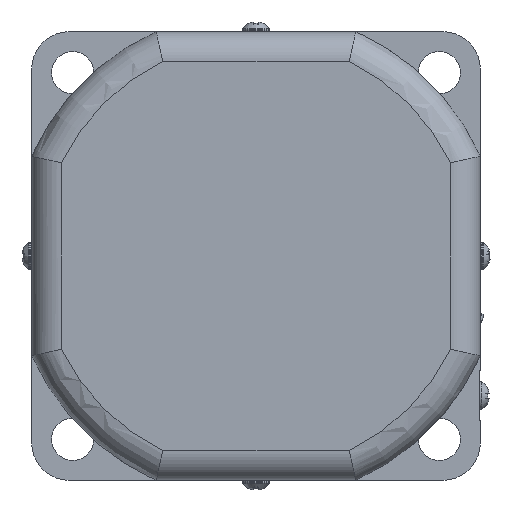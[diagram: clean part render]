
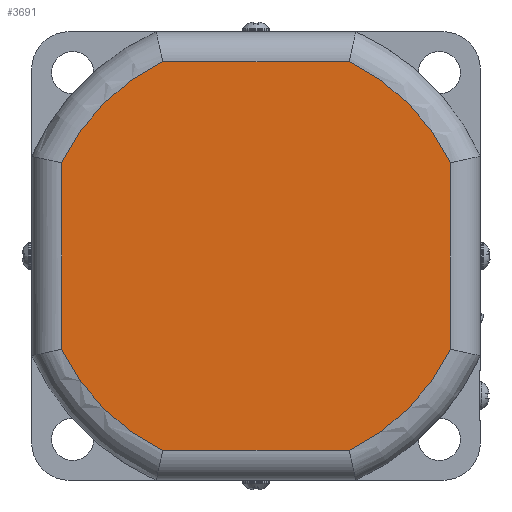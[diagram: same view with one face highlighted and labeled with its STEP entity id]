
A CAD part, left-side view. The second image highlights one B-rep face of the part: STEP entity #3691.
In plain terms, the highlighted planar face has unit normal (-1, 0, 0) as drawn and (0, 0, -1) by its records, which use the part's own axes.
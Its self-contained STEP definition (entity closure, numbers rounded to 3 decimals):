
#399=LINE('',#6521,#687);
#402=LINE('',#6541,#690);
#403=LINE('',#6594,#691);
#404=LINE('',#6611,#692);
#687=VECTOR('',#4920,37.393);
#690=VECTOR('',#4925,37.393);
#691=VECTOR('',#4940,37.393);
#692=VECTOR('',#4943,37.393);
#980=FACE_OUTER_BOUND('',#1221,.T.);
#1221=EDGE_LOOP('',(#3054,#3055,#3056,#3057,#3058,#3059,#3060,#3061));
#1393=CIRCLE('',#4109,43.25);
#1394=CIRCLE('',#4113,43.25);
#1397=CIRCLE('',#4117,43.25);
#1398=CIRCLE('',#4121,43.25);
#1680=VERTEX_POINT('',#6471);
#1682=VERTEX_POINT('',#6488);
#1684=VERTEX_POINT('',#6506);
#1686=VERTEX_POINT('',#6525);
#1687=VERTEX_POINT('',#6543);
#1688=VERTEX_POINT('',#6561);
#1689=VERTEX_POINT('',#6579);
#1690=VERTEX_POINT('',#6596);
#2149=EDGE_CURVE('',#1682,#1680,#1393,.T.);
#2151=EDGE_CURVE('',#1684,#1682,#399,.T.);
#2155=EDGE_CURVE('',#1680,#1686,#402,.T.);
#2157=EDGE_CURVE('',#1687,#1684,#1394,.T.);
#2161=EDGE_CURVE('',#1686,#1688,#1397,.T.);
#2163=EDGE_CURVE('',#1689,#1687,#403,.T.);
#2165=EDGE_CURVE('',#1688,#1690,#404,.T.);
#2166=EDGE_CURVE('',#1690,#1689,#1398,.T.);
#3054=ORIENTED_EDGE('',*,*,#2165,.F.);
#3055=ORIENTED_EDGE('',*,*,#2161,.F.);
#3056=ORIENTED_EDGE('',*,*,#2155,.F.);
#3057=ORIENTED_EDGE('',*,*,#2149,.F.);
#3058=ORIENTED_EDGE('',*,*,#2151,.F.);
#3059=ORIENTED_EDGE('',*,*,#2157,.F.);
#3060=ORIENTED_EDGE('',*,*,#2163,.F.);
#3061=ORIENTED_EDGE('',*,*,#2166,.F.);
#3497=PLANE('',#4123);
#3691=ADVANCED_FACE('',(#980),#3497,.F.);
#4109=AXIS2_PLACEMENT_3D('',#6503,#4916,#4917);
#4113=AXIS2_PLACEMENT_3D('',#6558,#4928,#4929);
#4117=AXIS2_PLACEMENT_3D('',#6577,#4936,#4937);
#4121=AXIS2_PLACEMENT_3D('',#6613,#4946,#4947);
#4123=AXIS2_PLACEMENT_3D('',#6615,#4950,#4951);
#4916=DIRECTION('center_axis',(0.,0.,1.));
#4917=DIRECTION('ref_axis',(0.707,-0.707,0.));
#4920=DIRECTION('',(1.,0.,0.));
#4925=DIRECTION('',(0.,1.,0.));
#4928=DIRECTION('center_axis',(0.,0.,1.));
#4929=DIRECTION('ref_axis',(-0.707,-0.707,0.));
#4936=DIRECTION('center_axis',(0.,0.,1.));
#4937=DIRECTION('ref_axis',(0.707,0.707,0.));
#4940=DIRECTION('',(0.,-1.,0.));
#4943=DIRECTION('',(-1.,0.,0.));
#4946=DIRECTION('center_axis',(0.,0.,1.));
#4947=DIRECTION('ref_axis',(-0.707,0.707,0.));
#4950=DIRECTION('center_axis',(0.,0.,1.));
#4951=DIRECTION('ref_axis',(1.,0.,0.));
#6471=CARTESIAN_POINT('',(39.,-18.697,0.));
#6488=CARTESIAN_POINT('',(18.697,-39.,0.));
#6503=CARTESIAN_POINT('Origin',(0.,0.,0.));
#6506=CARTESIAN_POINT('',(-18.697,-39.,0.));
#6521=CARTESIAN_POINT('',(-18.697,-39.,0.));
#6525=CARTESIAN_POINT('',(39.,18.697,0.));
#6541=CARTESIAN_POINT('',(39.,-18.697,0.));
#6543=CARTESIAN_POINT('',(-39.,-18.697,0.));
#6558=CARTESIAN_POINT('Origin',(0.,0.,0.));
#6561=CARTESIAN_POINT('',(18.697,39.,0.));
#6577=CARTESIAN_POINT('Origin',(0.,0.,0.));
#6579=CARTESIAN_POINT('',(-39.,18.697,0.));
#6594=CARTESIAN_POINT('',(-39.,18.697,0.));
#6596=CARTESIAN_POINT('',(-18.697,39.,0.));
#6611=CARTESIAN_POINT('',(18.697,39.,0.));
#6613=CARTESIAN_POINT('Origin',(0.,0.,0.));
#6615=CARTESIAN_POINT('Origin',(0.,0.,0.));
